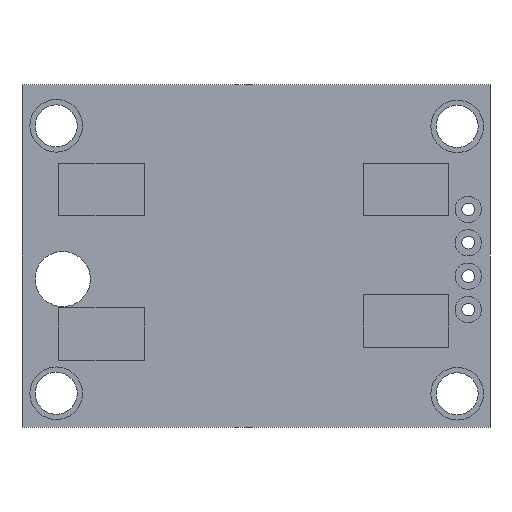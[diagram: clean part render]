
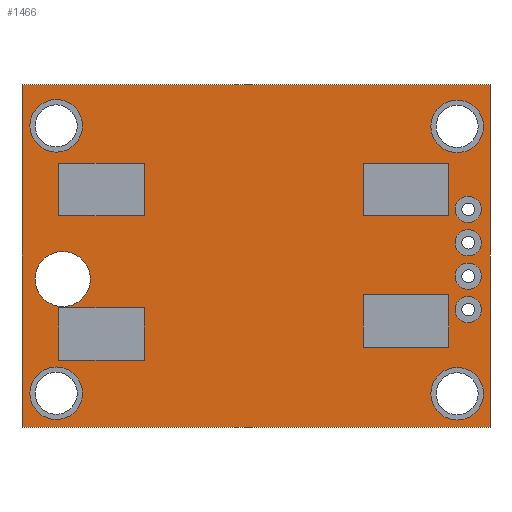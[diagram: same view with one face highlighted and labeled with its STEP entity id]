
A CAD part, front view. The second image highlights one B-rep face of the part: STEP entity #1466.
In plain terms, the highlighted planar face has unit normal (0, -1, 0).
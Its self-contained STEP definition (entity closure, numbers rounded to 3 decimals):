
#1183=CARTESIAN_POINT('',(0.,0.,0.));
#1184=DIRECTION('',(0.,-1.,0.));
#1185=DIRECTION('',(0.,0.,-1.));
#1186=AXIS2_PLACEMENT_3D('',#1183,#1184,#1185);
#1187=PLANE('',#1186);
#1188=CARTESIAN_POINT('',(25.96,0.,-15.98));
#1189=VERTEX_POINT('',#1188);
#1190=CARTESIAN_POINT('',(25.96,0.,-19.98));
#1191=VERTEX_POINT('',#1190);
#1192=CARTESIAN_POINT('',(25.96,0.,-15.98));
#1193=DIRECTION('',(0.,0.,-1.));
#1194=VECTOR('',#1193,4.);
#1195=LINE('',#1192,#1194);
#1196=EDGE_CURVE('',#1189,#1191,#1195,.T.);
#1197=ORIENTED_EDGE('',*,*,#1196,.F.);
#1198=CARTESIAN_POINT('',(32.46,0.,-15.98));
#1199=VERTEX_POINT('',#1198);
#1200=CARTESIAN_POINT('',(32.46,0.,-15.98));
#1201=DIRECTION('',(-1.,0.,0.));
#1202=VECTOR('',#1201,6.5);
#1203=LINE('',#1200,#1202);
#1204=EDGE_CURVE('',#1199,#1189,#1203,.T.);
#1205=ORIENTED_EDGE('',*,*,#1204,.F.);
#1206=CARTESIAN_POINT('',(32.46,0.,-19.98));
#1207=VERTEX_POINT('',#1206);
#1208=CARTESIAN_POINT('',(32.46,0.,-19.98));
#1209=DIRECTION('',(0.,0.,1.));
#1210=VECTOR('',#1209,4.);
#1211=LINE('',#1208,#1210);
#1212=EDGE_CURVE('',#1207,#1199,#1211,.T.);
#1213=ORIENTED_EDGE('',*,*,#1212,.F.);
#1214=CARTESIAN_POINT('',(25.96,0.,-19.98));
#1215=DIRECTION('',(1.,0.,-0.));
#1216=VECTOR('',#1215,6.5);
#1217=LINE('',#1214,#1216);
#1218=EDGE_CURVE('',#1191,#1207,#1217,.T.);
#1219=ORIENTED_EDGE('',*,*,#1218,.F.);
#1220=EDGE_LOOP('',(#1197,#1205,#1213,#1219));
#1221=FACE_BOUND('',#1220,.T.);
#1222=CARTESIAN_POINT('',(25.96,0.,-5.98));
#1223=VERTEX_POINT('',#1222);
#1224=CARTESIAN_POINT('',(25.96,0.,-9.98));
#1225=VERTEX_POINT('',#1224);
#1226=CARTESIAN_POINT('',(25.96,0.,-5.98));
#1227=DIRECTION('',(0.,0.,-1.));
#1228=VECTOR('',#1227,4.);
#1229=LINE('',#1226,#1228);
#1230=EDGE_CURVE('',#1223,#1225,#1229,.T.);
#1231=ORIENTED_EDGE('',*,*,#1230,.F.);
#1232=CARTESIAN_POINT('',(32.46,0.,-5.98));
#1233=VERTEX_POINT('',#1232);
#1234=CARTESIAN_POINT('',(32.46,0.,-5.98));
#1235=DIRECTION('',(-1.,0.,0.));
#1236=VECTOR('',#1235,6.5);
#1237=LINE('',#1234,#1236);
#1238=EDGE_CURVE('',#1233,#1223,#1237,.T.);
#1239=ORIENTED_EDGE('',*,*,#1238,.F.);
#1240=CARTESIAN_POINT('',(32.46,0.,-9.98));
#1241=VERTEX_POINT('',#1240);
#1242=CARTESIAN_POINT('',(32.46,0.,-9.98));
#1243=DIRECTION('',(0.,0.,1.));
#1244=VECTOR('',#1243,4.);
#1245=LINE('',#1242,#1244);
#1246=EDGE_CURVE('',#1241,#1233,#1245,.T.);
#1247=ORIENTED_EDGE('',*,*,#1246,.F.);
#1248=CARTESIAN_POINT('',(25.96,0.,-9.98));
#1249=DIRECTION('',(1.,0.,-0.));
#1250=VECTOR('',#1249,6.5);
#1251=LINE('',#1248,#1250);
#1252=EDGE_CURVE('',#1225,#1241,#1251,.T.);
#1253=ORIENTED_EDGE('',*,*,#1252,.F.);
#1254=EDGE_LOOP('',(#1231,#1239,#1247,#1253));
#1255=FACE_BOUND('',#1254,.T.);
#1256=CARTESIAN_POINT('',(2.8,0.,-16.98));
#1257=VERTEX_POINT('',#1256);
#1258=CARTESIAN_POINT('',(2.8,0.,-20.98));
#1259=VERTEX_POINT('',#1258);
#1260=CARTESIAN_POINT('',(2.8,0.,-16.98));
#1261=DIRECTION('',(0.,0.,-1.));
#1262=VECTOR('',#1261,4.);
#1263=LINE('',#1260,#1262);
#1264=EDGE_CURVE('',#1257,#1259,#1263,.T.);
#1265=ORIENTED_EDGE('',*,*,#1264,.F.);
#1266=CARTESIAN_POINT('',(9.3,0.,-16.98));
#1267=VERTEX_POINT('',#1266);
#1268=CARTESIAN_POINT('',(9.3,0.,-16.98));
#1269=DIRECTION('',(-1.,0.,0.));
#1270=VECTOR('',#1269,6.5);
#1271=LINE('',#1268,#1270);
#1272=EDGE_CURVE('',#1267,#1257,#1271,.T.);
#1273=ORIENTED_EDGE('',*,*,#1272,.F.);
#1274=CARTESIAN_POINT('',(9.3,0.,-20.98));
#1275=VERTEX_POINT('',#1274);
#1276=CARTESIAN_POINT('',(9.3,0.,-20.98));
#1277=DIRECTION('',(0.,0.,1.));
#1278=VECTOR('',#1277,4.);
#1279=LINE('',#1276,#1278);
#1280=EDGE_CURVE('',#1275,#1267,#1279,.T.);
#1281=ORIENTED_EDGE('',*,*,#1280,.F.);
#1282=CARTESIAN_POINT('',(2.8,0.,-20.98));
#1283=DIRECTION('',(1.,0.,-0.));
#1284=VECTOR('',#1283,6.5);
#1285=LINE('',#1282,#1284);
#1286=EDGE_CURVE('',#1259,#1275,#1285,.T.);
#1287=ORIENTED_EDGE('',*,*,#1286,.F.);
#1288=EDGE_LOOP('',(#1265,#1273,#1281,#1287));
#1289=FACE_BOUND('',#1288,.T.);
#1290=CARTESIAN_POINT('',(2.8,0.,-5.98));
#1291=VERTEX_POINT('',#1290);
#1292=CARTESIAN_POINT('',(2.8,0.,-9.98));
#1293=VERTEX_POINT('',#1292);
#1294=CARTESIAN_POINT('',(2.8,0.,-5.98));
#1295=DIRECTION('',(0.,0.,-1.));
#1296=VECTOR('',#1295,4.);
#1297=LINE('',#1294,#1296);
#1298=EDGE_CURVE('',#1291,#1293,#1297,.T.);
#1299=ORIENTED_EDGE('',*,*,#1298,.F.);
#1300=CARTESIAN_POINT('',(9.3,0.,-5.98));
#1301=VERTEX_POINT('',#1300);
#1302=CARTESIAN_POINT('',(9.3,0.,-5.98));
#1303=DIRECTION('',(-1.,0.,0.));
#1304=VECTOR('',#1303,6.5);
#1305=LINE('',#1302,#1304);
#1306=EDGE_CURVE('',#1301,#1291,#1305,.T.);
#1307=ORIENTED_EDGE('',*,*,#1306,.F.);
#1308=CARTESIAN_POINT('',(9.3,0.,-9.98));
#1309=VERTEX_POINT('',#1308);
#1310=CARTESIAN_POINT('',(9.3,0.,-9.98));
#1311=DIRECTION('',(0.,0.,1.));
#1312=VECTOR('',#1311,4.);
#1313=LINE('',#1310,#1312);
#1314=EDGE_CURVE('',#1309,#1301,#1313,.T.);
#1315=ORIENTED_EDGE('',*,*,#1314,.F.);
#1316=CARTESIAN_POINT('',(2.8,0.,-9.98));
#1317=DIRECTION('',(1.,0.,-0.));
#1318=VECTOR('',#1317,6.5);
#1319=LINE('',#1316,#1318);
#1320=EDGE_CURVE('',#1293,#1309,#1319,.T.);
#1321=ORIENTED_EDGE('',*,*,#1320,.F.);
#1322=EDGE_LOOP('',(#1299,#1307,#1315,#1321));
#1323=FACE_BOUND('',#1322,.T.);
#1324=CARTESIAN_POINT('',(33.94,0.,-18.114));
#1325=VERTEX_POINT('',#1324);
#1326=CARTESIAN_POINT('',(33.94,0.,-17.114));
#1327=DIRECTION('',(0.,-1.,0.));
#1328=DIRECTION('',(0.,0.,-1.));
#1329=AXIS2_PLACEMENT_3D('',#1326,#1327,#1328);
#1330=CIRCLE('',#1329,1.);
#1331=EDGE_CURVE('',#1325,#1325,#1330,.T.);
#1332=ORIENTED_EDGE('',*,*,#1331,.F.);
#1333=EDGE_LOOP('',(#1332));
#1334=FACE_BOUND('',#1333,.T.);
#1335=CARTESIAN_POINT('',(33.94,0.,-15.574));
#1336=VERTEX_POINT('',#1335);
#1337=CARTESIAN_POINT('',(33.94,0.,-14.574));
#1338=DIRECTION('',(0.,-1.,0.));
#1339=DIRECTION('',(0.,0.,-1.));
#1340=AXIS2_PLACEMENT_3D('',#1337,#1338,#1339);
#1341=CIRCLE('',#1340,1.);
#1342=EDGE_CURVE('',#1336,#1336,#1341,.T.);
#1343=ORIENTED_EDGE('',*,*,#1342,.F.);
#1344=EDGE_LOOP('',(#1343));
#1345=FACE_BOUND('',#1344,.T.);
#1346=CARTESIAN_POINT('',(33.94,0.,-13.034));
#1347=VERTEX_POINT('',#1346);
#1348=CARTESIAN_POINT('',(33.94,0.,-12.034));
#1349=DIRECTION('',(0.,-1.,0.));
#1350=DIRECTION('',(0.,0.,-1.));
#1351=AXIS2_PLACEMENT_3D('',#1348,#1349,#1350);
#1352=CIRCLE('',#1351,1.);
#1353=EDGE_CURVE('',#1347,#1347,#1352,.T.);
#1354=ORIENTED_EDGE('',*,*,#1353,.F.);
#1355=EDGE_LOOP('',(#1354));
#1356=FACE_BOUND('',#1355,.T.);
#1357=CARTESIAN_POINT('',(33.94,0.,-10.494));
#1358=VERTEX_POINT('',#1357);
#1359=CARTESIAN_POINT('',(33.94,0.,-9.494));
#1360=DIRECTION('',(0.,-1.,0.));
#1361=DIRECTION('',(0.,0.,-1.));
#1362=AXIS2_PLACEMENT_3D('',#1359,#1360,#1361);
#1363=CIRCLE('',#1362,1.);
#1364=EDGE_CURVE('',#1358,#1358,#1363,.T.);
#1365=ORIENTED_EDGE('',*,*,#1364,.F.);
#1366=EDGE_LOOP('',(#1365));
#1367=FACE_BOUND('',#1366,.T.);
#1368=CARTESIAN_POINT('',(33.1,0.,-5.179));
#1369=VERTEX_POINT('',#1368);
#1370=CARTESIAN_POINT('',(33.1,0.,-3.179));
#1371=DIRECTION('',(0.,-1.,0.));
#1372=DIRECTION('',(0.,0.,-1.));
#1373=AXIS2_PLACEMENT_3D('',#1370,#1371,#1372);
#1374=CIRCLE('',#1373,2.);
#1375=EDGE_CURVE('',#1369,#1369,#1374,.T.);
#1376=ORIENTED_EDGE('',*,*,#1375,.F.);
#1377=EDGE_LOOP('',(#1376));
#1378=FACE_BOUND('',#1377,.T.);
#1379=CARTESIAN_POINT('',(33.1,0.,-25.519));
#1380=VERTEX_POINT('',#1379);
#1381=CARTESIAN_POINT('',(33.1,0.,-23.519));
#1382=DIRECTION('',(0.,-1.,0.));
#1383=DIRECTION('',(0.,0.,-1.));
#1384=AXIS2_PLACEMENT_3D('',#1381,#1382,#1383);
#1385=CIRCLE('',#1384,2.);
#1386=EDGE_CURVE('',#1380,#1380,#1385,.T.);
#1387=ORIENTED_EDGE('',*,*,#1386,.F.);
#1388=EDGE_LOOP('',(#1387));
#1389=FACE_BOUND('',#1388,.T.);
#1390=CARTESIAN_POINT('',(2.6,0.,-25.48));
#1391=VERTEX_POINT('',#1390);
#1392=CARTESIAN_POINT('',(2.6,0.,-23.48));
#1393=DIRECTION('',(0.,-1.,0.));
#1394=DIRECTION('',(0.,0.,-1.));
#1395=AXIS2_PLACEMENT_3D('',#1392,#1393,#1394);
#1396=CIRCLE('',#1395,2.);
#1397=EDGE_CURVE('',#1391,#1391,#1396,.T.);
#1398=ORIENTED_EDGE('',*,*,#1397,.F.);
#1399=EDGE_LOOP('',(#1398));
#1400=FACE_BOUND('',#1399,.T.);
#1401=CARTESIAN_POINT('',(2.6,0.,-5.14));
#1402=VERTEX_POINT('',#1401);
#1403=CARTESIAN_POINT('',(2.6,0.,-3.14));
#1404=DIRECTION('',(0.,-1.,0.));
#1405=DIRECTION('',(0.,0.,-1.));
#1406=AXIS2_PLACEMENT_3D('',#1403,#1404,#1405);
#1407=CIRCLE('',#1406,2.);
#1408=EDGE_CURVE('',#1402,#1402,#1407,.T.);
#1409=ORIENTED_EDGE('',*,*,#1408,.F.);
#1410=EDGE_LOOP('',(#1409));
#1411=FACE_BOUND('',#1410,.T.);
#1412=CARTESIAN_POINT('',(0.,0.,-26.08));
#1413=VERTEX_POINT('',#1412);
#1414=CARTESIAN_POINT('',(0.,0.,0.));
#1415=VERTEX_POINT('',#1414);
#1416=CARTESIAN_POINT('',(0.,0.,-26.08));
#1417=DIRECTION('',(0.,0.,1.));
#1418=VECTOR('',#1417,26.08);
#1419=LINE('',#1416,#1418);
#1420=EDGE_CURVE('',#1413,#1415,#1419,.T.);
#1421=ORIENTED_EDGE('',*,*,#1420,.F.);
#1422=CARTESIAN_POINT('',(35.6,0.,-26.08));
#1423=VERTEX_POINT('',#1422);
#1424=CARTESIAN_POINT('',(35.6,0.,-26.08));
#1425=DIRECTION('',(-1.,0.,0.));
#1426=VECTOR('',#1425,35.6);
#1427=LINE('',#1424,#1426);
#1428=EDGE_CURVE('',#1423,#1413,#1427,.T.);
#1429=ORIENTED_EDGE('',*,*,#1428,.F.);
#1430=CARTESIAN_POINT('',(35.6,0.,0.));
#1431=VERTEX_POINT('',#1430);
#1432=CARTESIAN_POINT('',(35.6,0.,0.));
#1433=DIRECTION('',(0.,0.,-1.));
#1434=VECTOR('',#1433,26.08);
#1435=LINE('',#1432,#1434);
#1436=EDGE_CURVE('',#1431,#1423,#1435,.T.);
#1437=ORIENTED_EDGE('',*,*,#1436,.F.);
#1438=CARTESIAN_POINT('',(0.,0.,0.));
#1439=DIRECTION('',(1.,0.,0.));
#1440=VECTOR('',#1439,35.6);
#1441=LINE('',#1438,#1440);
#1442=EDGE_CURVE('',#1415,#1431,#1441,.T.);
#1443=ORIENTED_EDGE('',*,*,#1442,.F.);
#1444=EDGE_LOOP('',(#1421,#1429,#1437,#1443));
#1445=FACE_BOUND('',#1444,.T.);
#1446=CARTESIAN_POINT('',(3.1,0.,-12.694));
#1447=VERTEX_POINT('',#1446);
#1448=CARTESIAN_POINT('',(3.1,0.,-16.894));
#1449=VERTEX_POINT('',#1448);
#1450=CARTESIAN_POINT('',(3.1,0.,-14.794));
#1451=DIRECTION('',(0.,1.,0.));
#1452=DIRECTION('',(0.,-0.,1.));
#1453=AXIS2_PLACEMENT_3D('',#1450,#1451,#1452);
#1454=CIRCLE('',#1453,2.1);
#1455=EDGE_CURVE('',#1447,#1449,#1454,.T.);
#1456=ORIENTED_EDGE('',*,*,#1455,.T.);
#1457=CARTESIAN_POINT('',(3.1,0.,-14.794));
#1458=DIRECTION('',(0.,1.,0.));
#1459=DIRECTION('',(0.,-0.,1.));
#1460=AXIS2_PLACEMENT_3D('',#1457,#1458,#1459);
#1461=CIRCLE('',#1460,2.1);
#1462=EDGE_CURVE('',#1449,#1447,#1461,.T.);
#1463=ORIENTED_EDGE('',*,*,#1462,.T.);
#1464=EDGE_LOOP('',(#1456,#1463));
#1465=FACE_BOUND('',#1464,.T.);
#1466=ADVANCED_FACE('',(#1221,#1255,#1289,#1323,#1334,#1345,#1356,#1367,#1378,#1389,#1400,#1411,#1445,#1465),#1187,.T.);
